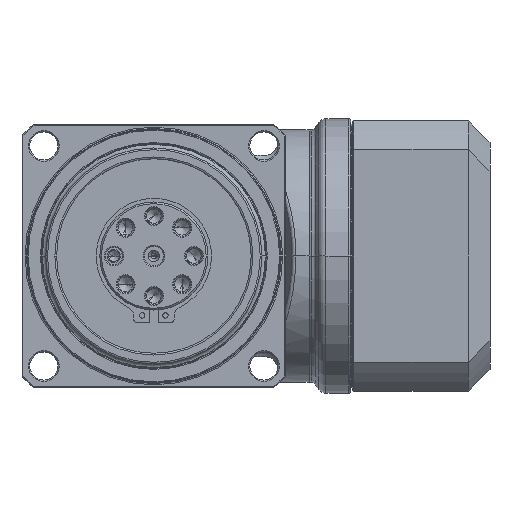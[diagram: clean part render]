
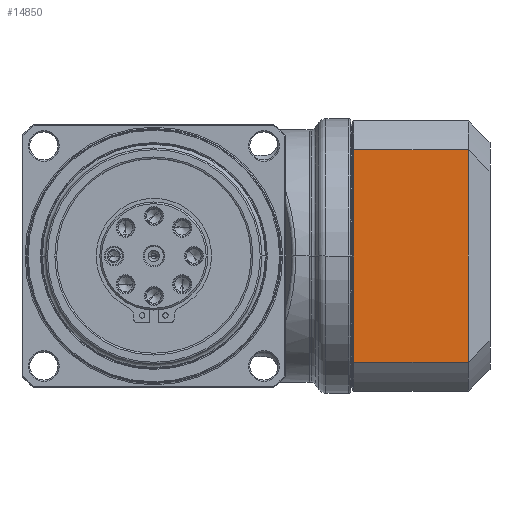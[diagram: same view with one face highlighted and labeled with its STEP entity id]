
A CAD part, left-side view. The second image highlights one B-rep face of the part: STEP entity #14850.
In plain terms, the highlighted planar face has unit normal (-1, 0, 0) as drawn and (0, -1, 0) by its records, which use the part's own axes.
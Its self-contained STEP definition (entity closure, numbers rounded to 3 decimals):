
#13613=CARTESIAN_POINT('',(49.132,-62.5,56.));
#13622=DIRECTION('',(1.,0.,0.));
#13623=VECTOR('',#13622,98.265);
#13624=CARTESIAN_POINT('',(-49.132,-62.5,56.));
#13625=LINE('',#13624,#13623);
#13626=DIRECTION('',(0.,0.,1.));
#13627=VECTOR('',#13626,53.1);
#13628=CARTESIAN_POINT('',(49.132,-62.5,
2.9));
#13629=LINE('',#13628,#13627);
#13630=DIRECTION('',(1.,0.,0.));
#13631=VECTOR('',#13630,98.265);
#13632=CARTESIAN_POINT('',(-49.132,-62.5,
2.9));
#13633=LINE('',#13632,#13631);
#13634=DIRECTION('',(0.,0.,1.));
#13635=VECTOR('',#13634,53.1);
#13636=CARTESIAN_POINT('',(-49.132,-62.5,
2.9));
#13637=LINE('',#13636,#13635);
#14026=CARTESIAN_POINT('',(-49.132,-62.5,2.9));
#14028=VERTEX_POINT('',#14026);
#14031=CARTESIAN_POINT('',(49.132,-62.5,
2.9));
#14032=VERTEX_POINT('',#14031);
#14078=CARTESIAN_POINT('',(-49.132,-62.5,56.));
#14080=VERTEX_POINT('',#14078);
#14088=VERTEX_POINT('',#13613);
#14836=CARTESIAN_POINT('',(-62.5,-62.5,0.));
#14837=DIRECTION('',(0.,-1.,0.));
#14838=DIRECTION('',(1.,0.,0.));
#14839=AXIS2_PLACEMENT_3D('',#14836,#14837,#14838);
#14840=PLANE('',#14839);
#14841=ORIENTED_EDGE('',*,*,#14829,.T.);
#14843=ORIENTED_EDGE('',*,*,#14842,.F.);
#14845=ORIENTED_EDGE('',*,*,#14844,.F.);
#14847=ORIENTED_EDGE('',*,*,#14846,.T.);
#14848=EDGE_LOOP('',(#14841,#14843,#14845,#14847));
#14849=FACE_OUTER_BOUND('',#14848,.F.);
#14850=ADVANCED_FACE('',(#14849),#14840,.T.);
#14829=EDGE_CURVE('',#14080,#14088,#13625,.T.);
#14842=EDGE_CURVE('',#14032,#14088,#13629,.T.);
#14844=EDGE_CURVE('',#14028,#14032,#13633,.T.);
#14846=EDGE_CURVE('',#14028,#14080,#13637,.T.);
